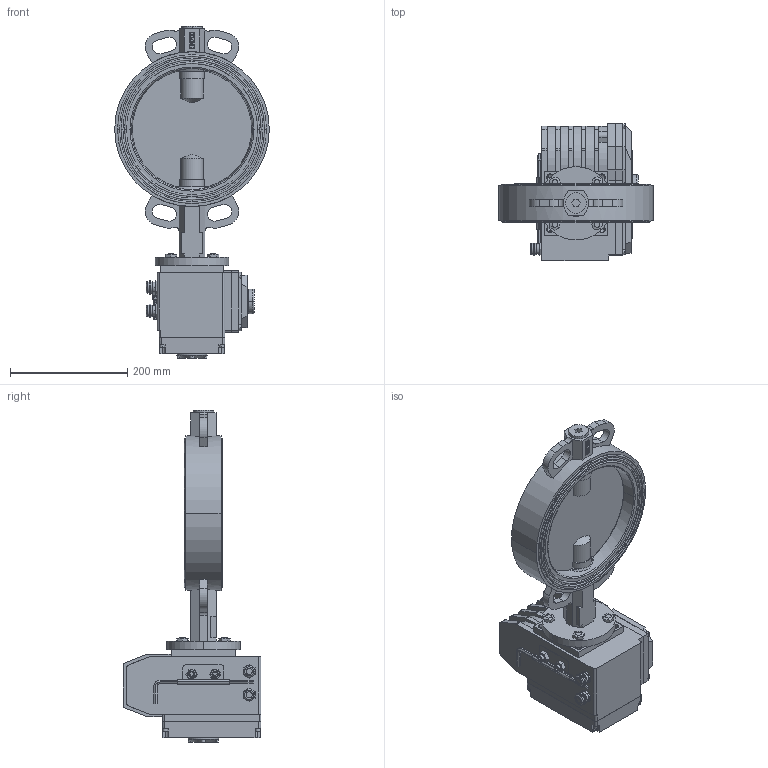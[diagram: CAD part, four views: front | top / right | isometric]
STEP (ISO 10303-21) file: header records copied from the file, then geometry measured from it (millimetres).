
FILE_DESCRIPTION((''),'2;1');
FILE_NAME('VBS_EAR_T_ASM','2025-02-22T',('AMD'),(''),'PRO/ENGINEER BY PARAMETRIC TECHNOLOGY CORPORATION, 2008020','PRO/ENGINEER BY PARAMETRIC TECHNOLOGY CORPORATION, 2008020','');
FILE_SCHEMA(('CONFIG_CONTROL_DESIGN'));
Length unit declared in the file: millimetre
Products named in the file (24): KORPUS; REZ; DISK; SHTIR_1; ZAGLUSHKA; O-RING; SHTIR_2; SHAIBA_RAZREZ; SHAIBA; KOLCO_34_GOST13943; VTULKA; MANZET_REZ; SB_ASM; B-7798-M10-30; DET_1; V-11738-M5; V-11738-M4; DET_2; KREPLENIE; KLUCH; DET_3; G-5915-M10; ELECTROPRIVOD_ASM; VBS_EAR_T_ASM
Assembly tree (45 placements, depth 3):
  VBS_EAR_T_ASM
    SB_ASM
      KORPUS
      REZ
      DISK
      SHTIR_1
      ZAGLUSHKA
      O-RING  x2
      SHTIR_2
      SHAIBA_RAZREZ
      SHAIBA  x2
      KOLCO_34_GOST13943
      VTULKA  x5
      MANZET_REZ
    B-7798-M10-30  x4
    ELECTROPRIVOD_ASM
      DET_1
      V-11738-M5  x10
      V-11738-M4  x4
      DET_2
      KREPLENIE
      KLUCH
      DET_3
      G-5915-M10  x2
Bounding box: 264 x 235 x 566.5 mm (x, y, z)
Volume: 6355341.7 mm3; surface area: 867316.7 mm2
Topology: 43 solids, 82 shells, 1724 faces, 4411 edges, 2893 vertices
Faces by surface type: plane 1127, cylinder 461, cone 98, torus 38
Entity records: 44531 total; most frequent: CARTESIAN_POINT 8231, DIRECTION 7568, ORIENTED_EDGE 7270, EDGE_CURVE 3683, VECTOR 2700, LINE 2700, AXIS2_PLACEMENT_3D 2434, VERTEX_POINT 2431
